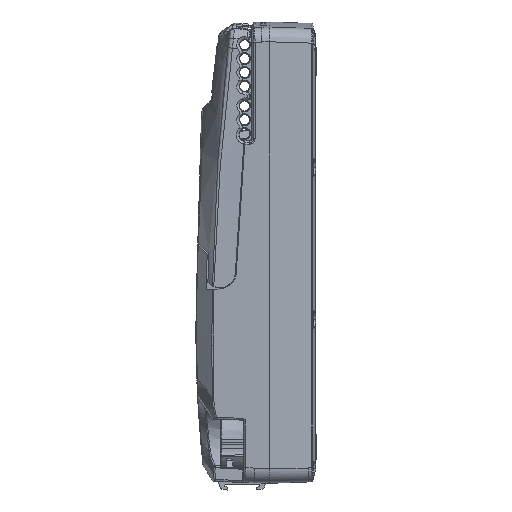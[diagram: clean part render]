
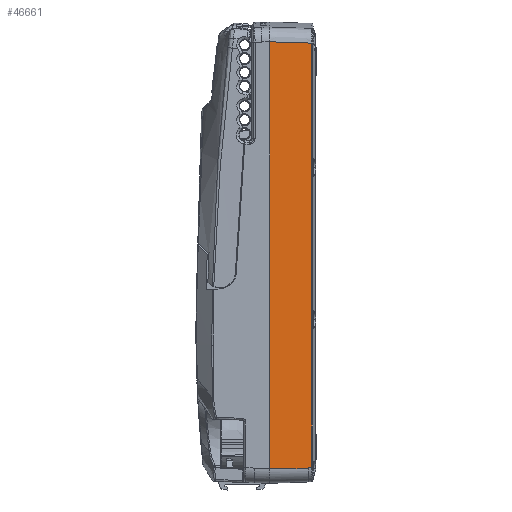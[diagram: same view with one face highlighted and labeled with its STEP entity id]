
A CAD part, left-side view. The second image highlights one B-rep face of the part: STEP entity #46661.
In plain terms, the highlighted planar face has unit normal (-0.999, -0.035, 0).
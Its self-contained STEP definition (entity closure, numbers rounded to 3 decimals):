
#263 = EDGE_CURVE ( 'NONE', #94200, #36763, #43705, .T. ) ;
#3929 = CARTESIAN_POINT ( 'NONE',  ( -59.516, -13.86, 7.995 ) ) ;
#10321 = VECTOR ( 'NONE', #30925, 1000. ) ;
#18340 = DIRECTION ( 'NONE',  ( -0.999, -0.035, 0. ) ) ;
#19253 = CARTESIAN_POINT ( 'NONE',  ( -60., 0., 239.806 ) ) ;
#19522 = LINE ( 'NONE', #103244, #87242 ) ;
#19661 = EDGE_LOOP ( 'NONE', ( #38754, #38086, #29857, #72744, #92851, #60394 ) ) ;
#29857 = ORIENTED_EDGE ( 'NONE', *, *, #45804, .F. ) ;
#30925 = DIRECTION ( 'NONE',  ( -0.035, 0.999, 0.031 ) ) ;
#35863 = VERTEX_POINT ( 'NONE', #80753 ) ;
#36461 = CARTESIAN_POINT ( 'NONE',  ( -59.267, -21., 0. ) ) ;
#36763 = VERTEX_POINT ( 'NONE', #38674 ) ;
#38086 = ORIENTED_EDGE ( 'NONE', *, *, #263, .F. ) ;
#38674 = CARTESIAN_POINT ( 'NONE',  ( -59.267, -21., 8.728 ) ) ;
#38754 = ORIENTED_EDGE ( 'NONE', *, *, #58578, .T. ) ;
#43039 = AXIS2_PLACEMENT_3D ( 'NONE', #64109, #18340, #91811 ) ;
#43705 = LINE ( 'NONE', #70192, #63978 ) ;
#45804 = EDGE_CURVE ( 'NONE', #35863, #94200, #19522, .T. ) ;
#46661 = ADVANCED_FACE ( 'NONE', ( #101449 ), #83968, .T. ) ;
#48403 = CARTESIAN_POINT ( 'NONE',  ( -60., 0., 239.806 ) ) ;
#53309 = DIRECTION ( 'NONE',  ( -0.035, 0.999, -0.035 ) ) ;
#54062 = CARTESIAN_POINT ( 'NONE',  ( -59.198, -22.973, 8.797 ) ) ;
#55708 = DIRECTION ( 'NONE',  ( 0., 0., 1. ) ) ;
#56829 = LINE ( 'NONE', #48403, #10321 ) ;
#57182 = CARTESIAN_POINT ( 'NONE',  ( -59.267, -21., 7.995 ) ) ;
#58578 = EDGE_CURVE ( 'NONE', #103485, #36763, #84021, .T. ) ;
#60394 = ORIENTED_EDGE ( 'NONE', *, *, #113055, .F. ) ;
#63978 = VECTOR ( 'NONE', #53309, 1000. ) ;
#64109 = CARTESIAN_POINT ( 'NONE',  ( -60., 0., 0. ) ) ;
#65053 = VERTEX_POINT ( 'NONE', #67928 ) ;
#67928 = CARTESIAN_POINT ( 'NONE',  ( -60., 0., 7.995 ) ) ;
#68365 = DIRECTION ( 'NONE',  ( -0.035, 0.999, 0. ) ) ;
#70192 = CARTESIAN_POINT ( 'NONE',  ( -60.01, 0.279, 7.985 ) ) ;
#72744 = ORIENTED_EDGE ( 'NONE', *, *, #74651, .T. ) ;
#74651 = EDGE_CURVE ( 'NONE', #35863, #107164, #56829, .T. ) ;
#75943 = CARTESIAN_POINT ( 'NONE',  ( -60., 0., 0. ) ) ;
#80753 = CARTESIAN_POINT ( 'NONE',  ( -59.198, -22.973, 239.084 ) ) ;
#83968 = PLANE ( 'NONE',  #43039 ) ;
#84021 = LINE ( 'NONE', #36461, #89876 ) ;
#87242 = VECTOR ( 'NONE', #110481, 1000. ) ;
#89876 = VECTOR ( 'NONE', #55708, 1000. ) ;
#90749 = VECTOR ( 'NONE', #112714, 1000. ) ;
#91811 = DIRECTION ( 'NONE',  ( 0.035, -0.999, 0. ) ) ;
#92851 = ORIENTED_EDGE ( 'NONE', *, *, #110466, .T. ) ;
#94200 = VERTEX_POINT ( 'NONE', #54062 ) ;
#101449 = FACE_OUTER_BOUND ( 'NONE', #19661, .T. ) ;
#103244 = CARTESIAN_POINT ( 'NONE',  ( -59.198, -22.973, 0. ) ) ;
#103485 = VERTEX_POINT ( 'NONE', #57182 ) ;
#106294 = LINE ( 'NONE', #3929, #115456 ) ;
#107164 = VERTEX_POINT ( 'NONE', #19253 ) ;
#110466 = EDGE_CURVE ( 'NONE', #107164, #65053, #113307, .T. ) ;
#110481 = DIRECTION ( 'NONE',  ( 0., 0., -1. ) ) ;
#112714 = DIRECTION ( 'NONE',  ( 0., 0., -1. ) ) ;
#113055 = EDGE_CURVE ( 'NONE', #103485, #65053, #106294, .T. ) ;
#113307 = LINE ( 'NONE', #75943, #90749 ) ;
#115456 = VECTOR ( 'NONE', #68365, 1000. ) ;
